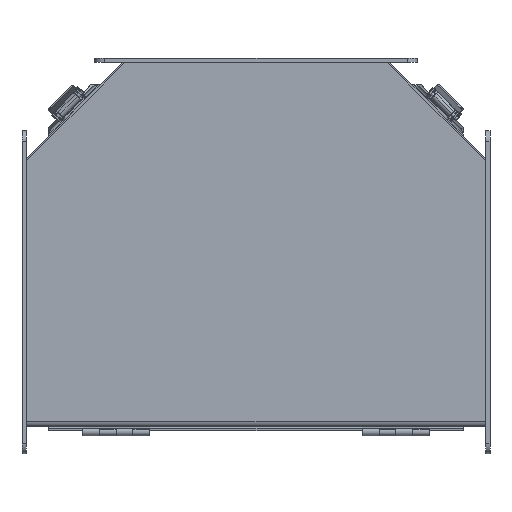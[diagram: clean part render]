
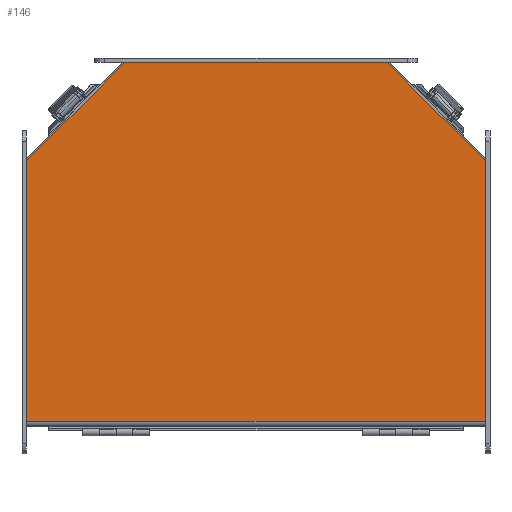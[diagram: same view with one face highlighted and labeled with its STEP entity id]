
A CAD part, front view. The second image highlights one B-rep face of the part: STEP entity #146.
In plain terms, the highlighted planar face has unit normal (0, -1, 0).
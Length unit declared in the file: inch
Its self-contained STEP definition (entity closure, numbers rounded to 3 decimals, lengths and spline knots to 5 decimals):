
#146 = ADVANCED_FACE ( 'NONE', ( #24378 ), #4326, .T. ) ;
#4326 = PLANE ( 'NONE',  #17797 ) ;
#4360 = DIRECTION ( 'NONE',  ( 0., -1., 0. ) ) ;
#4364 = DIRECTION ( 'NONE',  ( 0., 0., -1. ) ) ;
#4375 = CARTESIAN_POINT ( 'NONE',  ( 6.86, -0.072, -5.43 ) ) ;
#6329 = CARTESIAN_POINT ( 'NONE',  ( -6.86, -0.072, 2.461 ) ) ;
#6342 = CARTESIAN_POINT ( 'NONE',  ( -6.86, -0.072, -5.278 ) ) ;
#6423 = CARTESIAN_POINT ( 'NONE',  ( 6.86, -0.072, -5.278 ) ) ;
#6475 = CARTESIAN_POINT ( 'NONE',  ( 6.86, -0.072, 2.461 ) ) ;
#6737 = CARTESIAN_POINT ( 'NONE',  ( -3.891, -0.072, 5.43 ) ) ;
#7020 = CARTESIAN_POINT ( 'NONE',  ( 3.891, -0.072, 5.43 ) ) ;
#8444 = EDGE_CURVE ( 'NONE', #34279, #33837, #15326, .T. ) ;
#8445 = EDGE_CURVE ( 'NONE', #33365, #33887, #15432, .T. ) ;
#8454 = EDGE_CURVE ( 'NONE', #34270, #34206, #15527, .T. ) ;
#8457 = EDGE_CURVE ( 'NONE', #34270, #34279, #15516, .T. ) ;
#8459 = EDGE_CURVE ( 'NONE', #33837, #33365, #15512, .T. ) ;
#8472 = EDGE_CURVE ( 'NONE', #33887, #34206, #15493, .T. ) ;
#15326 = LINE ( 'NONE', #20651, #15430 ) ;
#15430 = VECTOR ( 'NONE', #20641, 39.37008 ) ;
#15432 = LINE ( 'NONE', #20640, #15433 ) ;
#15433 = VECTOR ( 'NONE', #20638, 39.37008 ) ;
#15492 = VECTOR ( 'NONE', #20493, 39.37008 ) ;
#15493 = LINE ( 'NONE', #20495, #15492 ) ;
#15511 = VECTOR ( 'NONE', #20556, 39.37008 ) ;
#15512 = LINE ( 'NONE', #20558, #15511 ) ;
#15515 = VECTOR ( 'NONE', #20563, 39.37008 ) ;
#15516 = LINE ( 'NONE', #20565, #15515 ) ;
#15520 = VECTOR ( 'NONE', #20584, 39.37008 ) ;
#15527 = LINE ( 'NONE', #20598, #15520 ) ;
#17797 = AXIS2_PLACEMENT_3D ( 'NONE', #4375, #4360, #4364 ) ;
#20493 = DIRECTION ( 'NONE',  ( 0., 0., -1. ) ) ;
#20495 = CARTESIAN_POINT ( 'NONE',  ( 6.86, -0.072, 2.461 ) ) ;
#20556 = DIRECTION ( 'NONE',  ( 1., 0., 0. ) ) ;
#20558 = CARTESIAN_POINT ( 'NONE',  ( -3.891, -0.072, 5.43 ) ) ;
#20563 = DIRECTION ( 'NONE',  ( 0., 0., 1. ) ) ;
#20565 = CARTESIAN_POINT ( 'NONE',  ( -6.86, -0.072, 2.461 ) ) ;
#20584 = DIRECTION ( 'NONE',  ( 1., 0., 0. ) ) ;
#20598 = CARTESIAN_POINT ( 'NONE',  ( -6.86, -0.072, -5.278 ) ) ;
#20638 = DIRECTION ( 'NONE',  ( 0.707, 0., -0.707 ) ) ;
#20640 = CARTESIAN_POINT ( 'NONE',  ( 3.891, -0.072, 5.43 ) ) ;
#20641 = DIRECTION ( 'NONE',  ( 0.707, 0., 0.707 ) ) ;
#20651 = CARTESIAN_POINT ( 'NONE',  ( -3.891, -0.072, 5.43 ) ) ;
#24378 = FACE_OUTER_BOUND ( 'NONE', #25201, .T. ) ;
#25201 = EDGE_LOOP ( 'NONE', ( #28763, #28850, #28920, #28782, #35302, #35275 ) ) ;
#28763 = ORIENTED_EDGE ( 'NONE', *, *, #8457, .F. ) ;
#28782 = ORIENTED_EDGE ( 'NONE', *, *, #8445, .F. ) ;
#28850 = ORIENTED_EDGE ( 'NONE', *, *, #8454, .T. ) ;
#28920 = ORIENTED_EDGE ( 'NONE', *, *, #8472, .F. ) ;
#33365 = VERTEX_POINT ( 'NONE', #7020 ) ;
#33837 = VERTEX_POINT ( 'NONE', #6737 ) ;
#33887 = VERTEX_POINT ( 'NONE', #6475 ) ;
#34206 = VERTEX_POINT ( 'NONE', #6423 ) ;
#34270 = VERTEX_POINT ( 'NONE', #6342 ) ;
#34279 = VERTEX_POINT ( 'NONE', #6329 ) ;
#35275 = ORIENTED_EDGE ( 'NONE', *, *, #8444, .F. ) ;
#35302 = ORIENTED_EDGE ( 'NONE', *, *, #8459, .F. ) ;
